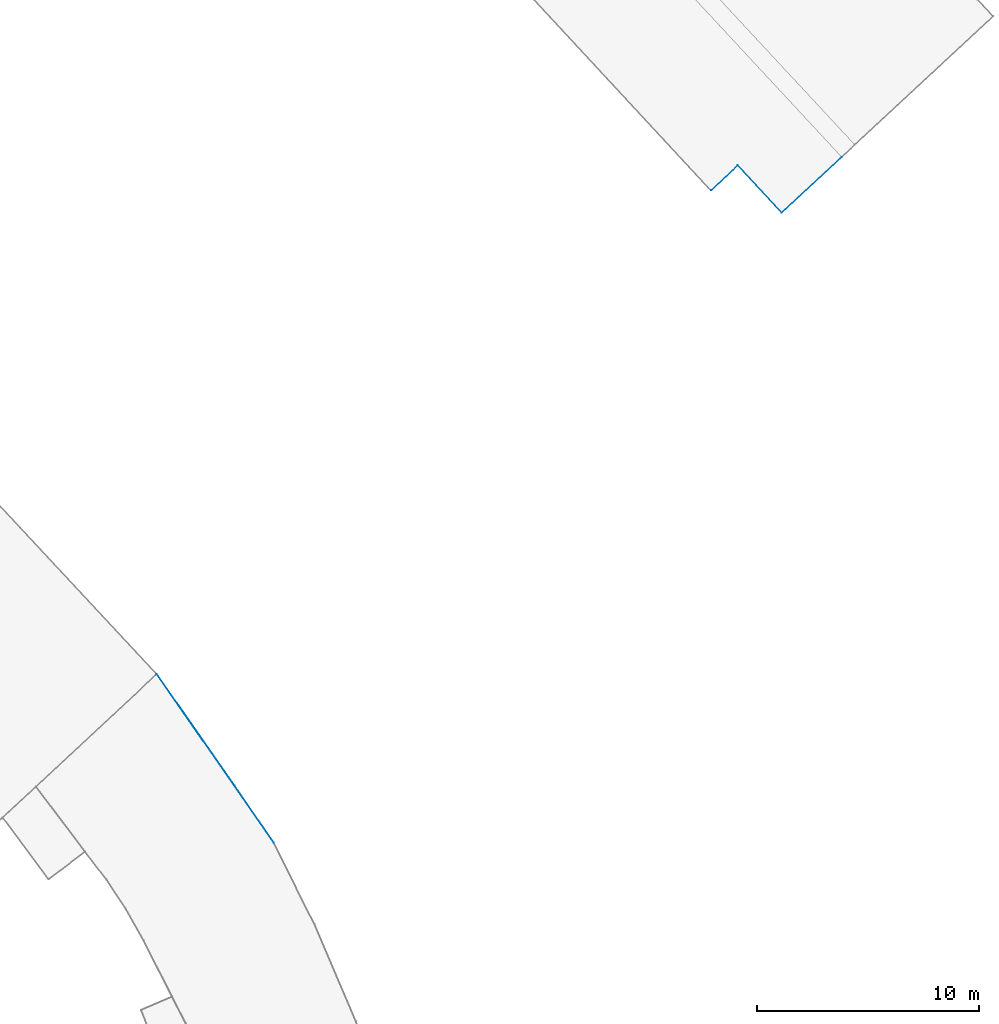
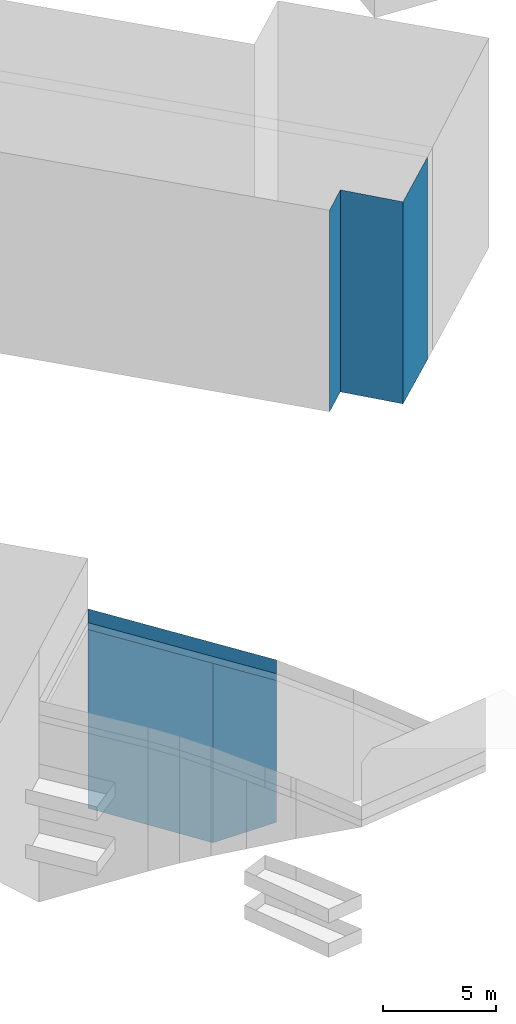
# Not in any storey, part 21 of 136: 8 walls.
"""IFC2X3 building model written with IfcOpenShell, lengths in metres."""

from ifc_helpers import new_model, entity, si_unit, converted_unit, frame, origin, place, context, subcontext, project, spatial, face_set, surface_model, element, save


model = new_model("IFC2X3")

# Units and contexts
model_context = context("Model", 3, precision=1e-05, world=origin())
body_context = subcontext(model_context, "Body", "Model", "MODEL_VIEW")
ifc_project = project(units=[converted_unit("PLANEANGLEUNIT", "DEGREE", entity("IfcRatioMeasure", 0.0174532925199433), si_unit("PLANEANGLEUNIT", "RADIAN"), dimensions=[0, 0, 0, 0, 0, 0, 0]), si_unit("AREAUNIT", "SQUARE_METRE"), si_unit("LENGTHUNIT", "METRE")], contexts=[model_context])

# Site, building
site_placement = place(None, origin())
site = spatial("IfcSite", under=ifc_project, at=site_placement, Name="_site", CompositionType="ELEMENT")
building_1_placement = place(site_placement, origin())
building_1 = spatial("IfcBuilding", under=site, at=building_1_placement, Name="_building", CompositionType="ELEMENT")

# Walls
wall_1_placement = place(building_1_placement, origin())
element("IfcWall", 1, at=wall_1_placement, inside=building_1, Name="Wall", context=body_context, shape_type="SurfaceModel", body=[
    surface_model("IfcFaceBasedSurfaceModel", [(167.11, -30.07, 48.41), (172.37, -37.66, 48.41), (172.37, -37.66, 48.04), (167.11, -30.07, 48.04)], [face_set([[[0, 1, 2, 3]]])]),
])
wall_2_placement = place(building_1_placement, origin())
element("IfcWall", 2, at=wall_2_placement, inside=building_1, Name="Wall", context=body_context, shape_type="SurfaceModel", body=[
    surface_model("IfcFaceBasedSurfaceModel", [(170.61, -35.09, 48.04), (172.37, -37.66, 48.04), (172.37, -37.66, 40.363), (170.61, -35.09, 38.314)], [face_set([[[0, 1, 2, 3]]])]),
])
wall_3_placement = place(building_1_placement, origin())
element("IfcWall", 3, at=wall_3_placement, inside=building_1, Name="Wall", context=body_context, shape_type="SurfaceModel", body=[
    surface_model("IfcFaceBasedSurfaceModel", [(167.11, -30.07, 48.04), (170.61, -35.09, 48.04), (170.61, -35.09, 38.314), (167.11, -30.07, 38.37)], [face_set([[[0, 1, 2, 3]]])]),
])
for number, where, name in (
    (4, (0.0, 0.0, 0.0), "Wall"),
    (5, (0.0, 0.0, 0.0), "Wall"),
):
    element("IfcWall", number, at=place(building_1_placement, frame(where)), inside=building_1, Name=name, context=body_context, shape_type="SurfaceModel", body=[
        surface_model("IfcFaceBasedSurfaceModel", [(167.11, -30.07, 48.41), (172.37, -37.66, 48.41), (172.37, -37.66, 49.16), (167.11, -30.07, 49.16)], [face_set([[[0, 1, 2, 3]]])]),
    ])

# Building
building_2_placement = place(site_placement, origin())
building_2 = spatial("IfcBuilding", under=site, at=building_2_placement, Name="_building", CompositionType="ELEMENT")

# Walls
wall_4_placement = place(building_2_placement, origin())
element("IfcWall", 6, at=wall_4_placement, inside=building_2, Name="Wall", context=body_context, shape_type="SurfaceModel", body=[
    surface_model("IfcFaceBasedSurfaceModel", [(193.24, -7.189, 48.81), (192.04, -8.32, 48.81), (192.04, -8.32, 37.905), (193.24, -7.189, 37.874)], [face_set([[[0, 1, 2, 3]]])]),
])
wall_5_placement = place(building_2_placement, origin())
element("IfcWall", 7, at=wall_5_placement, inside=building_2, Name="Wall", context=body_context, shape_type="SurfaceModel", body=[
    surface_model("IfcFaceBasedSurfaceModel", [(195.22, -9.32, 48.76), (193.24, -7.189, 48.81), (193.24, -7.189, 37.874), (195.22, -9.32, 37.824)], [face_set([[[0, 1, 2, 3]]])]),
])
wall_6_placement = place(building_2_placement, origin())
element("IfcWall", 8, at=wall_6_placement, inside=building_2, Name="Wall", context=body_context, shape_type="SurfaceModel", body=[
    surface_model("IfcFaceBasedSurfaceModel", [(197.91, -6.82, 48.72), (195.22, -9.32, 48.76), (195.22, -9.32, 37.824), (197.91, -6.82, 37.745)], [face_set([[[0, 1, 2, 3]]])]),
])

save(model, "model.ifc")
